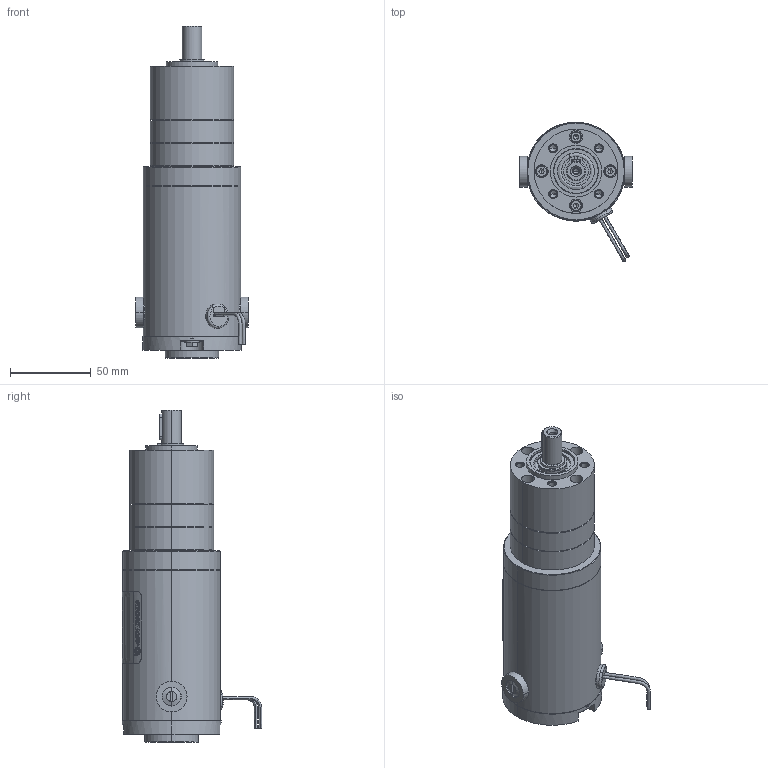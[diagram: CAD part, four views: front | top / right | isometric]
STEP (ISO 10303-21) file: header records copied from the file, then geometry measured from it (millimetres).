
FILE_DESCRIPTION (( 'STEP AP214' ), '1' );
FILE_NAME ('PM6013-PL5200i_2S.STEP', '2013-05-01T14:24:14', ( '' ), ( '' ), 'SwSTEP 2.0', 'SolidWorks 2013', '' );
FILE_SCHEMA (( 'AUTOMOTIVE_DESIGN' ));
Length unit declared in the file: inch
Products named in the file (1): PM6013-PL5200i_2S
Bounding box: 69.81 x 86.45 x 205.65 mm (x, y, z)
Surface area: 127404.4 mm2 (no closed solid volume)
Topology: 0 solids, 40 shells, 1871 faces, 4925 edges, 3169 vertices
Faces by surface type: plane 632, cylinder 594, bspline 389, cone 181, torus 61, sphere 14
Entity records: 106382 total; most frequent: CARTESIAN_POINT 37770, ORIENTED_EDGE 9698, DIRECTION 8241, EDGE_CURVE 4859, VERTEX_POINT 3155, AXIS2_PLACEMENT_3D 3061, VECTOR 2119, LINE 2119
